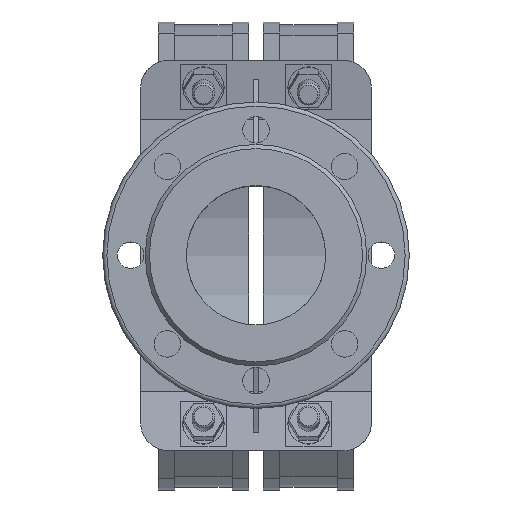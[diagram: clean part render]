
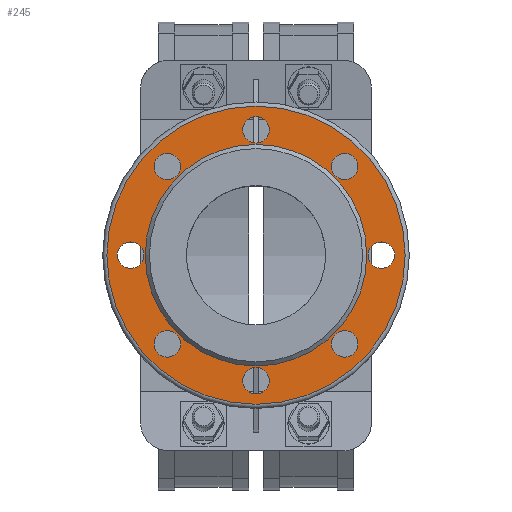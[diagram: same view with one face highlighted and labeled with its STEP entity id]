
A CAD part, top view. The second image highlights one B-rep face of the part: STEP entity #245.
In plain terms, the highlighted planar face has unit normal (0, 0, 1).
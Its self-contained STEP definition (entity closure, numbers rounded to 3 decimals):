
#245 = ADVANCED_FACE( '', ( #677, #678, #679, #680, #681, #682, #683, #684, #685, #686 ), #687, .F. );
#677 = FACE_OUTER_BOUND( '', #1177, .T. );
#678 = FACE_BOUND( '', #1178, .T. );
#679 = FACE_BOUND( '', #1179, .T. );
#680 = FACE_BOUND( '', #1180, .T. );
#681 = FACE_BOUND( '', #1181, .T. );
#682 = FACE_BOUND( '', #1182, .T. );
#683 = FACE_BOUND( '', #1183, .T. );
#684 = FACE_BOUND( '', #1184, .T. );
#685 = FACE_BOUND( '', #1185, .T. );
#686 = FACE_BOUND( '', #1186, .T. );
#687 = PLANE( '', #1187 );
#1177 = EDGE_LOOP( '', ( #2553 ) );
#1178 = EDGE_LOOP( '', ( #2554 ) );
#1179 = EDGE_LOOP( '', ( #2555 ) );
#1180 = EDGE_LOOP( '', ( #2556 ) );
#1181 = EDGE_LOOP( '', ( #2557 ) );
#1182 = EDGE_LOOP( '', ( #2558 ) );
#1183 = EDGE_LOOP( '', ( #2559 ) );
#1184 = EDGE_LOOP( '', ( #2560 ) );
#1185 = EDGE_LOOP( '', ( #2561 ) );
#1186 = EDGE_LOOP( '', ( #2562 ) );
#1187 = AXIS2_PLACEMENT_3D( '', #2563, #2564, #2565 );
#2553 = ORIENTED_EDGE( '', *, *, #3271, .F. );
#2554 = ORIENTED_EDGE( '', *, *, #3265, .T. );
#2555 = ORIENTED_EDGE( '', *, *, #3251, .T. );
#2556 = ORIENTED_EDGE( '', *, *, #3253, .T. );
#2557 = ORIENTED_EDGE( '', *, *, #3255, .T. );
#2558 = ORIENTED_EDGE( '', *, *, #3257, .T. );
#2559 = ORIENTED_EDGE( '', *, *, #3259, .T. );
#2560 = ORIENTED_EDGE( '', *, *, #3261, .T. );
#2561 = ORIENTED_EDGE( '', *, *, #3263, .T. );
#2562 = ORIENTED_EDGE( '', *, *, #3272, .T. );
#2563 = CARTESIAN_POINT( '', ( 0., 79.5, 318. ) );
#2564 = DIRECTION( '', ( 0., 0., -1. ) );
#2565 = DIRECTION( '', ( -1., 0., 0. ) );
#3251 = EDGE_CURVE( '', #4009, #4009, #4010, .T. );
#3253 = EDGE_CURVE( '', #4013, #4013, #4014, .T. );
#3255 = EDGE_CURVE( '', #4017, #4017, #4018, .T. );
#3257 = EDGE_CURVE( '', #4021, #4021, #4022, .T. );
#3259 = EDGE_CURVE( '', #4025, #4025, #4026, .T. );
#3261 = EDGE_CURVE( '', #4029, #4029, #4030, .T. );
#3263 = EDGE_CURVE( '', #4033, #4033, #4034, .T. );
#3265 = EDGE_CURVE( '', #4037, #4037, #4038, .T. );
#3271 = EDGE_CURVE( '', #4049, #4049, #4050, .T. );
#3272 = EDGE_CURVE( '', #4051, #4051, #4052, .T. );
#4009 = VERTEX_POINT( '', #5857 );
#4010 = CIRCLE( '', #5858, 9.5 );
#4013 = VERTEX_POINT( '', #5861 );
#4014 = CIRCLE( '', #5862, 9.5 );
#4017 = VERTEX_POINT( '', #5865 );
#4018 = CIRCLE( '', #5866, 9.5 );
#4021 = VERTEX_POINT( '', #5869 );
#4022 = CIRCLE( '', #5870, 9.5 );
#4025 = VERTEX_POINT( '', #5873 );
#4026 = CIRCLE( '', #5874, 9.5 );
#4029 = VERTEX_POINT( '', #5877 );
#4030 = CIRCLE( '', #5878, 9.5 );
#4033 = VERTEX_POINT( '', #5881 );
#4034 = CIRCLE( '', #5882, 9.5 );
#4037 = VERTEX_POINT( '', #5885 );
#4038 = CIRCLE( '', #5886, 9.5 );
#4049 = VERTEX_POINT( '', #5897 );
#4050 = CIRCLE( '', #5898, 107. );
#4051 = VERTEX_POINT( '', #5899 );
#4052 = CIRCLE( '', #5900, 79.5 );
#5857 = CARTESIAN_POINT( '', ( -99.5, 0., 318. ) );
#5858 = AXIS2_PLACEMENT_3D( '', #6654, #6655, #6656 );
#5861 = CARTESIAN_POINT( '', ( -73.14, -63.64, 318. ) );
#5862 = AXIS2_PLACEMENT_3D( '', #6660, #6661, #6662 );
#5865 = CARTESIAN_POINT( '', ( -9.5, -90., 318. ) );
#5866 = AXIS2_PLACEMENT_3D( '', #6666, #6667, #6668 );
#5869 = CARTESIAN_POINT( '', ( 54.14, -63.64, 318. ) );
#5870 = AXIS2_PLACEMENT_3D( '', #6672, #6673, #6674 );
#5873 = CARTESIAN_POINT( '', ( 80.5, 0., 318. ) );
#5874 = AXIS2_PLACEMENT_3D( '', #6678, #6679, #6680 );
#5877 = CARTESIAN_POINT( '', ( 54.14, 63.64, 318. ) );
#5878 = AXIS2_PLACEMENT_3D( '', #6684, #6685, #6686 );
#5881 = CARTESIAN_POINT( '', ( -73.14, 63.64, 318. ) );
#5882 = AXIS2_PLACEMENT_3D( '', #6690, #6691, #6692 );
#5885 = CARTESIAN_POINT( '', ( -9.5, 90., 318. ) );
#5886 = AXIS2_PLACEMENT_3D( '', #6696, #6697, #6698 );
#5897 = CARTESIAN_POINT( '', ( -107., 0., 318. ) );
#5898 = AXIS2_PLACEMENT_3D( '', #6714, #6715, #6716 );
#5899 = CARTESIAN_POINT( '', ( -79.5, 0., 318. ) );
#5900 = AXIS2_PLACEMENT_3D( '', #6717, #6718, #6719 );
#6654 = CARTESIAN_POINT( '', ( -90., 0., 318. ) );
#6655 = DIRECTION( '', ( 0., 0., -1. ) );
#6656 = DIRECTION( '', ( -1., 0., 0. ) );
#6660 = CARTESIAN_POINT( '', ( -63.64, -63.64, 318. ) );
#6661 = DIRECTION( '', ( 0., 0., -1. ) );
#6662 = DIRECTION( '', ( -1., 0., 0. ) );
#6666 = CARTESIAN_POINT( '', ( 0., -90., 318. ) );
#6667 = DIRECTION( '', ( 0., 0., -1. ) );
#6668 = DIRECTION( '', ( -1., 0., 0. ) );
#6672 = CARTESIAN_POINT( '', ( 63.64, -63.64, 318. ) );
#6673 = DIRECTION( '', ( 0., 0., -1. ) );
#6674 = DIRECTION( '', ( -1., 0., 0. ) );
#6678 = CARTESIAN_POINT( '', ( 90., 0., 318. ) );
#6679 = DIRECTION( '', ( 0., 0., -1. ) );
#6680 = DIRECTION( '', ( -1., 0., 0. ) );
#6684 = CARTESIAN_POINT( '', ( 63.64, 63.64, 318. ) );
#6685 = DIRECTION( '', ( 0., 0., -1. ) );
#6686 = DIRECTION( '', ( -1., 0., 0. ) );
#6690 = CARTESIAN_POINT( '', ( -63.64, 63.64, 318. ) );
#6691 = DIRECTION( '', ( 0., 0., -1. ) );
#6692 = DIRECTION( '', ( -1., 0., 0. ) );
#6696 = CARTESIAN_POINT( '', ( 0., 90., 318. ) );
#6697 = DIRECTION( '', ( 0., 0., -1. ) );
#6698 = DIRECTION( '', ( -1., 0., 0. ) );
#6714 = CARTESIAN_POINT( '', ( 0., 0., 318. ) );
#6715 = DIRECTION( '', ( 0., 0., -1. ) );
#6716 = DIRECTION( '', ( -1., 0., 0. ) );
#6717 = CARTESIAN_POINT( '', ( 0., 0., 318. ) );
#6718 = DIRECTION( '', ( 0., 0., -1. ) );
#6719 = DIRECTION( '', ( -1., 0., 0. ) );
